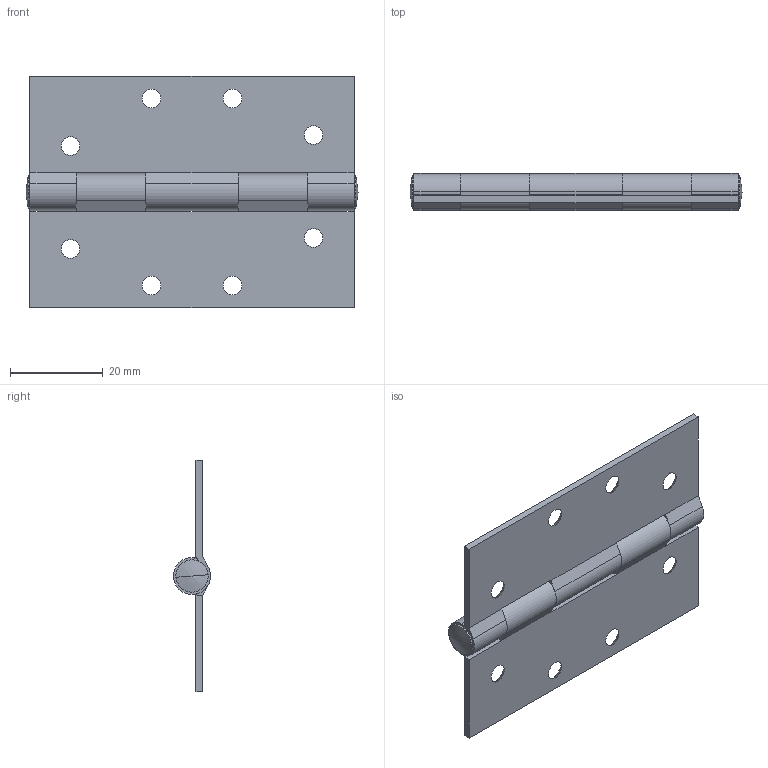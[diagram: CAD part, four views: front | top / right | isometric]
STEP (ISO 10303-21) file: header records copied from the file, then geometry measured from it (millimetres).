
FILE_DESCRIPTION (( 'STEP AP203' ), '1' );
FILE_NAME ('80129_1.STEP', '2020-05-27T07:28:26', ( '' ), ( '' ), 'SwSTEP 2.0', 'SolidWorks 2016', '' );
FILE_SCHEMA (( 'CONFIG_CONTROL_DESIGN' ));
Length unit declared in the file: millimetre
Products named in the file (4): 80129_1; SBF70BS_Cover_2; SBF70BS; PinSBF70BS
Assembly tree (3 placements, depth 2):
  80129_1
    SBF70BS_Cover_2
    SBF70BS
    PinSBF70BS
Bounding box: 71.71 x 8 x 50 mm (x, y, z)
Volume: 7965 mm3; surface area: 10862.8 mm2
Topology: 3 solids, 3 shells, 96 faces, 262 edges, 170 vertices
Faces by surface type: plane 40, cylinder 36, cone 16, bspline 4
Entity records: 3516 total; most frequent: CARTESIAN_POINT 582, DIRECTION 558, ORIENTED_EDGE 516, EDGE_CURVE 258, AXIS2_PLACEMENT_3D 206, VERTEX_POINT 170, VECTOR 146, LINE 146
